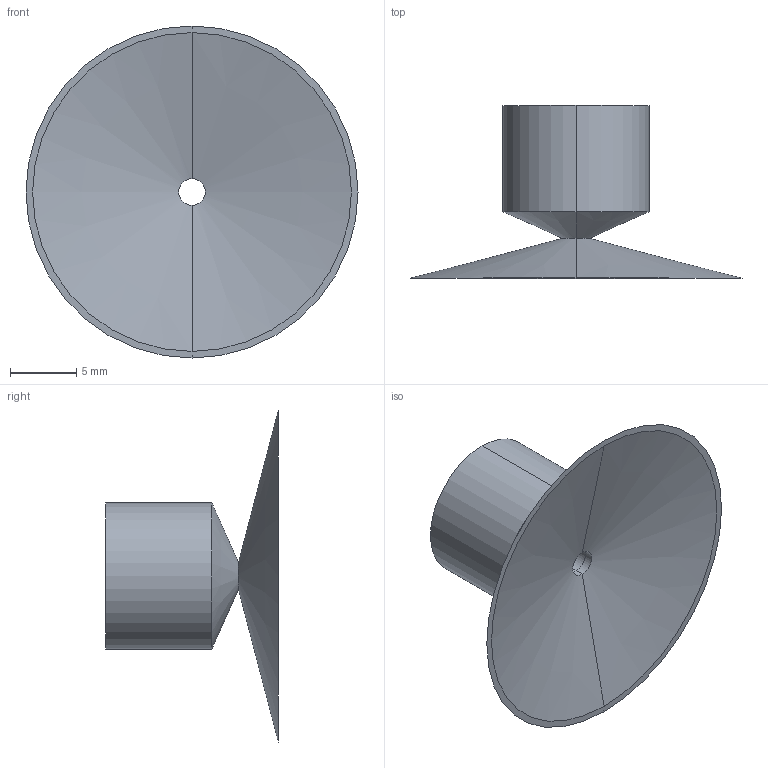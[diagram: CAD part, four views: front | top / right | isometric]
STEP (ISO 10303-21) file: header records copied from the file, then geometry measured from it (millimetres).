
FILE_DESCRIPTION (( 'STEP AP214' ), '1' );
FILE_NAME ('VSH-S25.STEP', '2019-11-30T08:40:03', ( '微软用户' ), ( '微软中国' ), 'SwSTEP 2.0', 'SolidWorks 2016', '' );
FILE_SCHEMA (( 'AUTOMOTIVE_DESIGN' ));
Length unit declared in the file: millimetre
Products named in the file (1): VSH-S25
Bounding box: 25 x 13 x 25 mm (x, y, z)
Volume: 810.8 mm3; surface area: 1638.8 mm2
Topology: 2 solids, 2 shells, 20 faces, 40 edges, 24 vertices
Faces by surface type: cylinder 10, cone 6, plane 4
Entity records: 575 total; most frequent: DIRECTION 106, CARTESIAN_POINT 85, ORIENTED_EDGE 80, AXIS2_PLACEMENT_3D 45, EDGE_CURVE 40, CIRCLE 24, VERTEX_POINT 24, EDGE_LOOP 24
